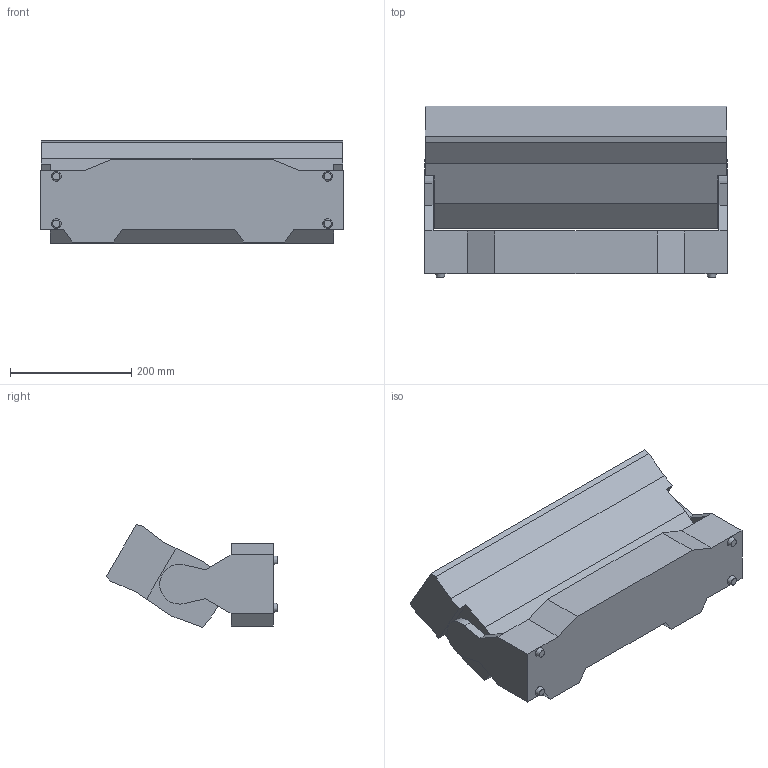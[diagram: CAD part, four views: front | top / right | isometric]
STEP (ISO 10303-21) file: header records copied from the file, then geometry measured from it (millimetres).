
FILE_DESCRIPTION(/* description */ (''),/* implementation_level */ '2;1');
FILE_NAME(/* name */ 'D:\dgooch\Documents\CADENG\PRO\COLORado PXL 8\30\COLORado PXL 8_30.stp',/* time_stamp */ '2021-04-21T16:23:58-04:00',/* author */ ('dgooch'),/* organization */ (''),/* preprocessor_version */ 'ST-DEVELOPER v18.1',/* originating_system */ 'Autodesk Inventor 2021',/* authorisation */ '');
FILE_SCHEMA (('AUTOMOTIVE_DESIGN { 1 0 10303 214 3 1 1 }'));
Length unit declared in the file: millimetre
Products named in the file (3): COLORado PXL 8; Base; Head
Assembly tree (2 placements, depth 2):
  COLORado PXL 8
    Base
    Head
Bounding box: 499.83 x 282.9 x 169.71 mm (x, y, z)
Volume: 12835599.4 mm3; surface area: 539718.4 mm2
Topology: 2 solids, 2 shells, 54 faces, 138 edges, 92 vertices
Faces by surface type: plane 47, cone 4, cylinder 3
Entity records: 1739 total; most frequent: CARTESIAN_POINT 289, ORIENTED_EDGE 276, DIRECTION 270, EDGE_CURVE 138, LINE 124, VECTOR 124, VERTEX_POINT 92, AXIS2_PLACEMENT_3D 73
